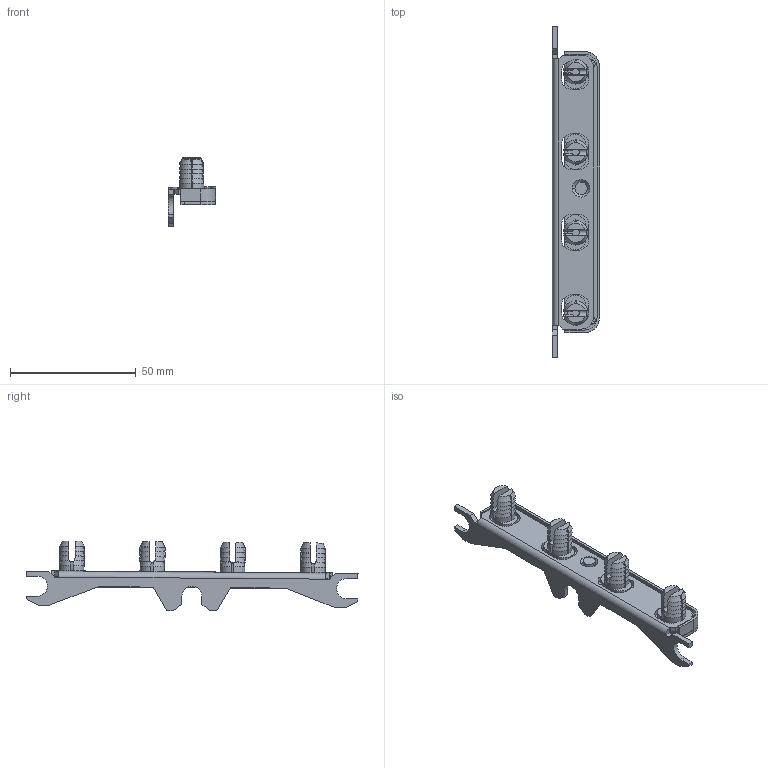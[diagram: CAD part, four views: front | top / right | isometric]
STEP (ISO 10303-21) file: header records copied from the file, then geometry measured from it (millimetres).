
FILE_DESCRIPTION((''),'2;1');
FILE_NAME('_272444_FRONTANBINDUNG_SD_ASM','2025-12-03T15:25:04',('1za37'),('Kesseboehmer_Holding_KG'),'CREO PARAMETRIC BY PTC INC, 2025123','CREO PARAMETRIC BY PTC INC, 2025123','');
FILE_SCHEMA(('AUTOMOTIVE_DESIGN { 1 0 10303 214 1 1 1 1 }'));
Length unit declared in the file: millimetre
Products named in the file (6): 90000002072_FOR_DUMMY_STEP_90; 90000002084_FOR_DUMMY_STEP_331; 90000002090_FOR_DUMMY_STEP_125; 90000002587_FOR_DUMMY_STEP_26; 90000002086_DUMMY_29; _272444_FRONTANBINDUNG_SD_ASM
Assembly tree (8 placements, depth 2):
  _272444_FRONTANBINDUNG_SD_ASM
    90000002072_FOR_DUMMY_STEP_90
    90000002084_FOR_DUMMY_STEP_331
    90000002090_FOR_DUMMY_STEP_125
    90000002587_FOR_DUMMY_STEP_26
    90000002086_DUMMY_29  x4
Bounding box: 18.74 x 132.08 x 27.82 mm (x, y, z)
Volume: 12890.2 mm3; surface area: 16863.2 mm2
Topology: 8 solids, 8 shells, 698 faces, 2054 edges, 1378 vertices
Faces by surface type: plane 362, cone 194, cylinder 134, torus 8
Entity records: 21527 total; most frequent: CARTESIAN_POINT 3395, ORIENTED_EDGE 2466, DIRECTION 2246, PRESENTATION_STYLE_ASSIGNMENT 1238, STYLED_ITEM 1238, CURVE_STYLE 1233, EDGE_CURVE 1233, VERTEX_POINT 832
